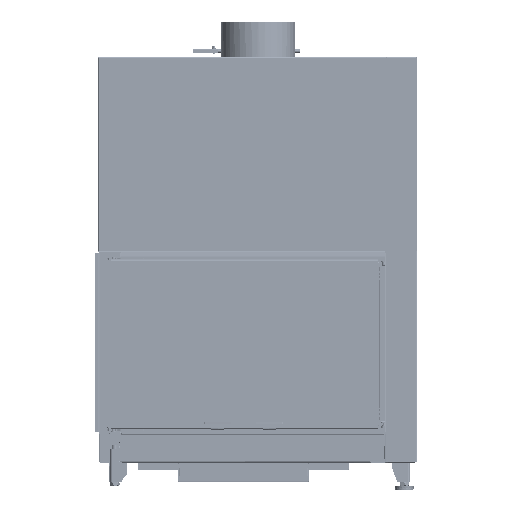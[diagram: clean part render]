
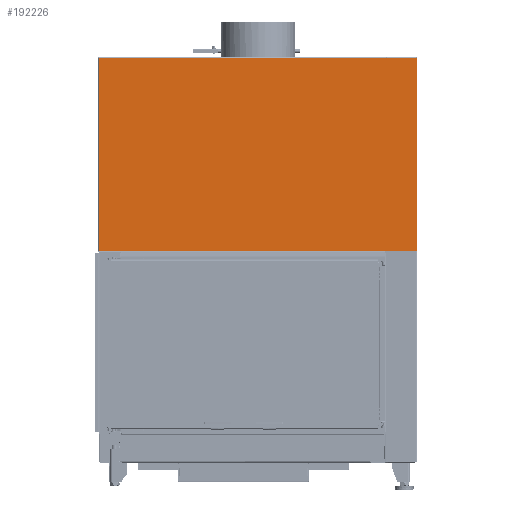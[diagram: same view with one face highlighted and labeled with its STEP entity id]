
A CAD part, front view. The second image highlights one B-rep face of the part: STEP entity #192226.
In plain terms, the highlighted planar face has unit normal (0, -1, 0).
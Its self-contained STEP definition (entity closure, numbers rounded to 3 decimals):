
#7507=LINE('',#285800,#25482);
#7511=LINE('',#285809,#25486);
#7513=LINE('',#285813,#25488);
#11676=LINE('',#302214,#29651);
#11684=LINE('',#302231,#29659);
#11685=LINE('',#302234,#29660);
#11686=LINE('',#302236,#29661);
#11687=LINE('',#302237,#29662);
#25482=VECTOR('',#225170,10.);
#25486=VECTOR('',#225180,10.);
#25488=VECTOR('',#225184,10.);
#29651=VECTOR('',#237979,10.);
#29659=VECTOR('',#237991,10.);
#29660=VECTOR('',#237994,10.);
#29661=VECTOR('',#237995,10.);
#29662=VECTOR('',#237996,10.);
#43239=PLANE('',#205891);
#51048=FACE_OUTER_BOUND('',#61614,.T.);
#61614=EDGE_LOOP('',(#143434,#143435,#143436,#143437,#143438,#143439,#143440,
#143441,#143442,#143443,#143444));
#69583=CIRCLE('',#201571,0.1);
#69585=CIRCLE('',#201576,3.);
#71507=CIRCLE('',#205892,3.);
#80320=VERTEX_POINT('',#285797);
#80321=VERTEX_POINT('',#285799);
#80322=VERTEX_POINT('',#285803);
#80323=VERTEX_POINT('',#285807);
#80324=VERTEX_POINT('',#285811);
#80326=VERTEX_POINT('',#285817);
#84415=VERTEX_POINT('',#302211);
#84416=VERTEX_POINT('',#302213);
#84423=VERTEX_POINT('',#302230);
#84424=VERTEX_POINT('',#302233);
#84425=VERTEX_POINT('',#302235);
#99009=EDGE_CURVE('',#80320,#80321,#7507,.T.);
#99012=EDGE_CURVE('',#80322,#80320,#69583,.T.);
#99014=EDGE_CURVE('',#80323,#80322,#7511,.T.);
#99016=EDGE_CURVE('',#80324,#80323,#7513,.T.);
#99019=EDGE_CURVE('',#80324,#80326,#69585,.T.);
#105547=EDGE_CURVE('',#84415,#84416,#11676,.T.);
#105555=EDGE_CURVE('',#84423,#80326,#11684,.T.);
#105556=EDGE_CURVE('',#84423,#84416,#71507,.T.);
#105557=EDGE_CURVE('',#84424,#84415,#11685,.T.);
#105558=EDGE_CURVE('',#84425,#84424,#11686,.T.);
#105559=EDGE_CURVE('',#80321,#84425,#11687,.T.);
#143434=ORIENTED_EDGE('',*,*,#99019,.T.);
#143435=ORIENTED_EDGE('',*,*,#105555,.F.);
#143436=ORIENTED_EDGE('',*,*,#105556,.T.);
#143437=ORIENTED_EDGE('',*,*,#105547,.F.);
#143438=ORIENTED_EDGE('',*,*,#105557,.F.);
#143439=ORIENTED_EDGE('',*,*,#105558,.F.);
#143440=ORIENTED_EDGE('',*,*,#105559,.F.);
#143441=ORIENTED_EDGE('',*,*,#99009,.F.);
#143442=ORIENTED_EDGE('',*,*,#99012,.F.);
#143443=ORIENTED_EDGE('',*,*,#99014,.F.);
#143444=ORIENTED_EDGE('',*,*,#99016,.F.);
#192226=ADVANCED_FACE('',(#51048),#43239,.F.);
#201571=AXIS2_PLACEMENT_3D('',#285805,#225175,#225176);
#201576=AXIS2_PLACEMENT_3D('',#285819,#225190,#225191);
#205891=AXIS2_PLACEMENT_3D('',#302229,#237989,#237990);
#205892=AXIS2_PLACEMENT_3D('',#302232,#237992,#237993);
#225170=DIRECTION('',(0.,0.,-1.));
#225175=DIRECTION('center_axis',(0.,-1.,
0.));
#225176=DIRECTION('ref_axis',(-1.,0.,0.));
#225180=DIRECTION('',(0.,0.,1.));
#225184=DIRECTION('',(-1.,0.,0.));
#225190=DIRECTION('center_axis',(0.,-1.,
0.));
#225191=DIRECTION('ref_axis',(0.707,0.,-0.707));
#237979=DIRECTION('',(1.,0.,0.));
#237989=DIRECTION('center_axis',(0.,1.,
0.));
#237990=DIRECTION('ref_axis',(-1.,0.,0.));
#237991=DIRECTION('',(0.,0.,-1.));
#237992=DIRECTION('center_axis',(0.,-1.,
0.));
#237993=DIRECTION('ref_axis',(0.707,0.,0.707));
#237994=DIRECTION('',(1.,0.,0.));
#237995=DIRECTION('',(0.,0.,1.));
#237996=DIRECTION('',(-1.,0.,0.));
#285797=CARTESIAN_POINT('',(-87.4,-59.998,582.359));
#285799=CARTESIAN_POINT('',(-87.4,-59.998,582.259));
#285800=CARTESIAN_POINT('',(-87.4,-59.994,715.946));
#285803=CARTESIAN_POINT('',(-87.2,-59.998,582.359));
#285805=CARTESIAN_POINT('Origin',(-87.3,-59.998,582.359));
#285807=CARTESIAN_POINT('',(-87.2,-59.998,582.259));
#285809=CARTESIAN_POINT('',(-87.2,-59.994,715.996));
#285811=CARTESIAN_POINT('',(-3.,-59.998,582.259));
#285813=CARTESIAN_POINT('',(0.,-59.998,582.259));
#285817=CARTESIAN_POINT('',(0.,-59.998,585.259));
#285819=CARTESIAN_POINT('Origin',(-3.,-59.998,585.259));
#302211=CARTESIAN_POINT('',(-84.15,-59.983,1114.259));
#302213=CARTESIAN_POINT('',(-3.,-59.983,1114.259));
#302214=CARTESIAN_POINT('',(-84.15,-59.983,1114.259));
#302229=CARTESIAN_POINT('Origin',(-480.775,-59.991,849.634));
#302230=CARTESIAN_POINT('',(0.,-59.983,1111.259));
#302231=CARTESIAN_POINT('',(0.,-59.983,1114.259));
#302232=CARTESIAN_POINT('Origin',(-3.,-59.983,1111.259));
#302233=CARTESIAN_POINT('',(-874.65,-59.983,1114.259));
#302234=CARTESIAN_POINT('',(-679.088,-59.983,1114.259));
#302235=CARTESIAN_POINT('',(-874.65,-59.998,582.259));
#302236=CARTESIAN_POINT('',(-874.65,-59.994,715.946));
#302237=CARTESIAN_POINT('',(0.,-59.998,582.259));
